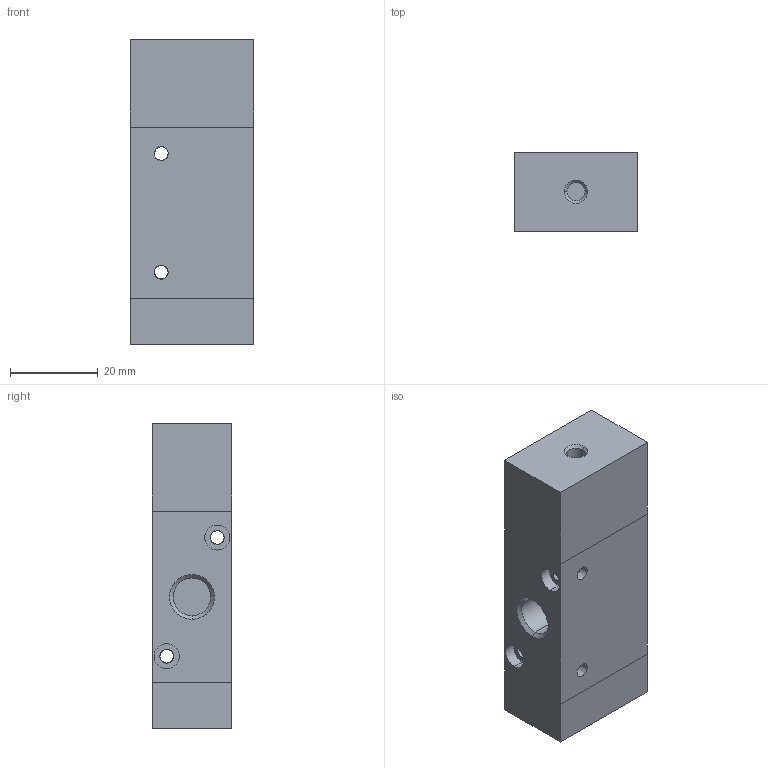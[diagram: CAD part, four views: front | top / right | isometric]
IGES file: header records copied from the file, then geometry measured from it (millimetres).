
Global section: file name: No Iges File Name specified; native system: AutoDesk Inventor R11.0; preprocessor: AutoDesk Inventor Iges Exporter R11.0; author: No Author specified; organization: No Organization specified; date: 20061201.120434; units: millimetre
Bounding box: 28 x 18 x 69.5 mm (x, y, z)
Volume: 32688.4 mm3; surface area: 8934 mm2
Topology: 1 solids, 1 shells, 58 faces, 136 edges, 84 vertices
Faces by surface type: bspline 34, plane 16, revolution 8
